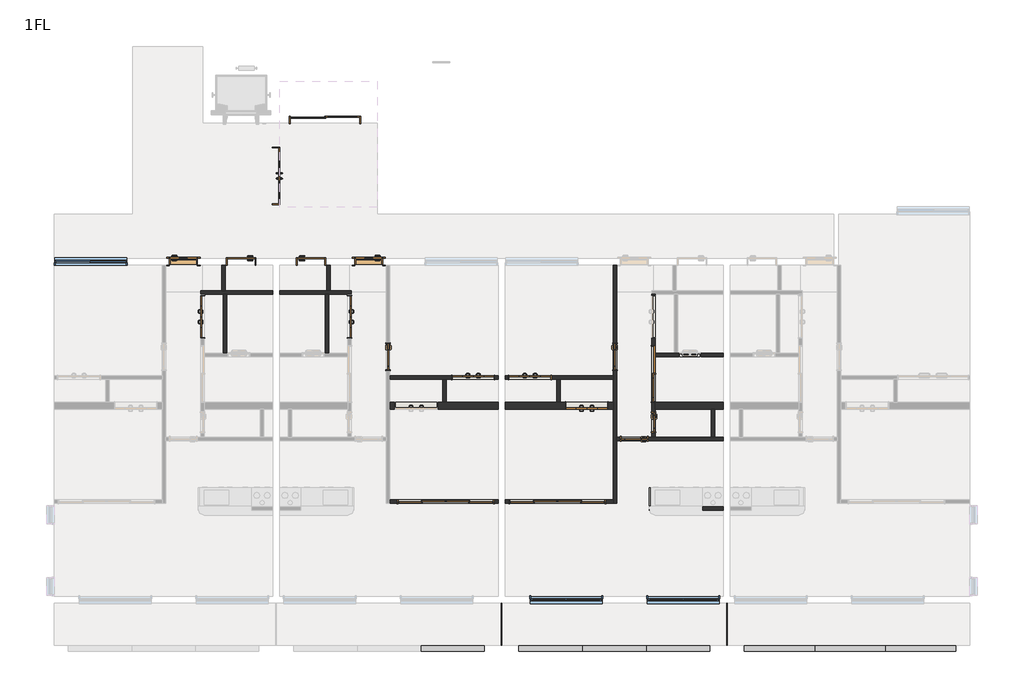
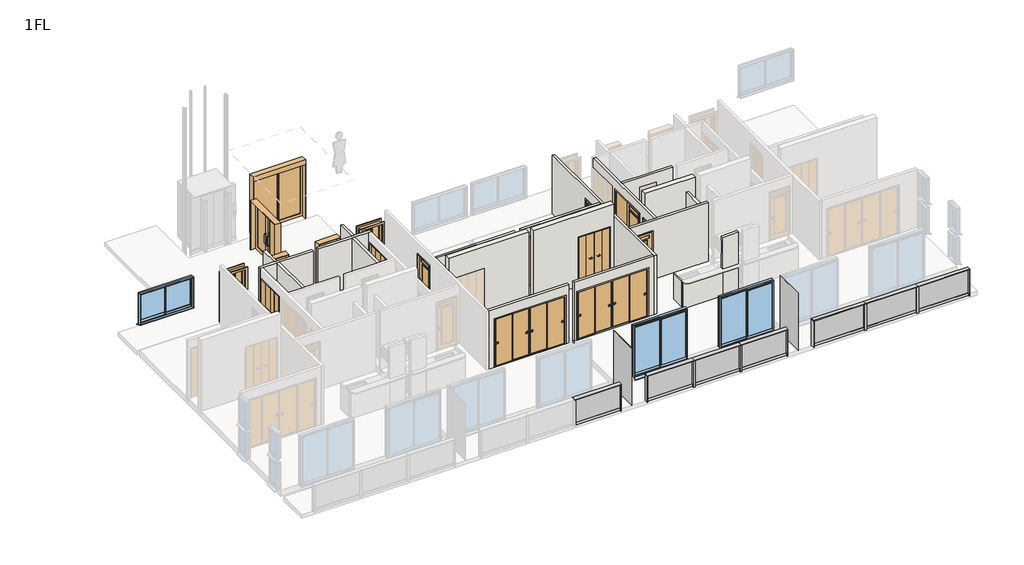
# One storey, part 2 of 3: 23 walls, 18 doors, 16 members, 9 plates, 3 windows.
"""IFC4 building model written with IfcOpenShell, lengths in millimetres."""

from ifc_helpers import new_model, si_unit, frame, origin, place, context, project, spatial, polyline, outline, extrude, faceted_brep, transform, mapped, element, save
from components import door_800x2000_a7d1584b, door_800x2000_010bfebf, w1200h2000_6a144d60, w1200h2000_98cacc9b, w1200h2000_99d19fb3, w1600h2000_4c3c234a, w1600h2000_3fdee943, w2000h2200_4605e8f1, w2800h2000_670b855b, w2800h2000_04aa64cd, w600h2000_7f2747f4, w800h2000_1d97c4d4, w800h2000_13e9f519, w800h2000_ccb03061, w800h2000_0ab7d42c, member_25x150_3f8205e2, member_25x150_f694351b, member_25x150_e95393f9, member_70x150_851c8a9b, plate_9f48129f, plate_365944b3, plate_b830f844, plate_2f85ae4c, plate_cef4847d, window_2000x1200_fc91d1cf, window_2000x2000_f1ff98da

model = new_model("IFC4")

# Units and contexts
model_context = context("Model", 3, world=origin())
ifc_project = project(units=[si_unit("LENGTHUNIT", "METRE", prefix="MILLI")], contexts=[model_context])

# Site, building, storey
site = spatial("IfcSite", under=ifc_project)
building = spatial("IfcBuilding", under=site)
storey = spatial("IfcBuildingStorey", under=building, Name="1FL", Elevation=1000.0)

# Doors
placement = place(None, origin())
door_800x2000_shape = door_800x2000_a7d1584b(model_context)
element("IfcDoor", 1, ObjectType="片開き3 : 800x2000", at=placement, inside=storey, context=model_context, shape_type="MappedRepresentation", body=[
    mapped(door_800x2000_shape, transform((-7378.7187246, -5700.1171638, 1000.0), x_axis=(1.0, 0.0, 0.0), y_axis=(0.0, 1.0, 0.0), z_axis=(0.0, 0.0, 1.0))),
])
door_800x2000_2_shape = door_800x2000_010bfebf(model_context)
element("IfcDoor", 2, ObjectType="片開き3 : 800x2000", at=placement, inside=storey, context=model_context, shape_type="MappedRepresentation", body=[
    mapped(door_800x2000_2_shape, transform((-2078.7187246, -5700.1171638, 1000.0), x_axis=(-1.0, 0.0, 0.0), y_axis=(0.0, -1.0, 0.0), z_axis=(0.0, 0.0, 1.0))),
])
w1200h2000_shape = w1200h2000_6a144d60(model_context)
element("IfcDoor", 3, ObjectType="木製折戸 : w1200h2000", at=placement, inside=storey, context=model_context, shape_type="MappedRepresentation", body=[
    mapped(w1200h2000_shape, transform((-6828.7187246, -7280.1171638, 1100.0), x_axis=(0.0, 1.0, 0.0), y_axis=(-1.0, 0.0, 0.0), z_axis=(0.0, 0.0, 1.0))),
])
element("IfcDoor", 4, ObjectType="木製折戸 : w1200h2000", at=placement, inside=storey, context=model_context, shape_type="MappedRepresentation", body=[
    mapped(w1200h2000_shape, transform((2533.7812754, -9020.1171638, 1100.0), x_axis=(1.0, 0.0, 0.0), y_axis=(0.0, 1.0, 0.0), z_axis=(0.0, 0.0, 1.0))),
])
w1200h2000_2_shape = w1200h2000_98cacc9b(model_context)
element("IfcDoor", 5, ObjectType="木製折戸 : w1200h2000", at=placement, inside=storey, context=model_context, shape_type="MappedRepresentation", body=[
    mapped(w1200h2000_2_shape, transform((4158.7812754, -9820.1171638, 1100.0), x_axis=(-1.0, 0.0, 0.0), y_axis=(0.0, -1.0, 0.0), z_axis=(0.0, 0.0, 1.0))),
])
w1200h2000_3_shape = w1200h2000_99d19fb3(model_context)
element("IfcDoor", 6, ObjectType="木製折戸 : w1200h2000", at=placement, inside=storey, context=model_context, shape_type="MappedRepresentation", body=[
    mapped(w1200h2000_3_shape, transform((908.7812754, -9020.1171638, 1100.0), x_axis=(-1.0, 0.0, 0.0), y_axis=(0.0, -1.0, 0.0), z_axis=(0.0, 0.0, 1.0))),
])
element("IfcDoor", 7, ObjectType="木製折戸 : w1200h2000", at=placement, inside=storey, context=model_context, shape_type="MappedRepresentation", body=[
    mapped(w1200h2000_3_shape, transform((-2628.7187246, -7280.1171638, 1100.0), x_axis=(0.0, 1.0, 0.0), y_axis=(-1.0, 0.0, 0.0), z_axis=(0.0, 0.0, 1.0))),
])
w1600h2000_shape = w1600h2000_4c3c234a(model_context)
element("IfcDoor", 8, ObjectType="片引戸CL2017 : w1600h2000", at=placement, inside=storey, context=model_context, shape_type="MappedRepresentation", body=[
    mapped(w1600h2000_shape, transform((6071.2812754, -8920.1171638, 1100.0), x_axis=(0.0, -1.0, 0.0), y_axis=(1.0, 0.0, 0.0), z_axis=(0.0, 0.0, 1.0))),
])
w1600h2000_2_shape = w1600h2000_3fdee943(model_context)
element("IfcDoor", 9, ObjectType="両開_ガラス四方框 : w1600h2000", at=placement, inside=storey, context=model_context, shape_type="MappedRepresentation", body=[
    mapped(w1600h2000_2_shape, transform((-4728.7187246, -3250.1171638, 1000.0), x_axis=(0.0, -1.0, 0.0), y_axis=(1.0, 0.0, 0.0), z_axis=(0.0, 0.0, 1.0))),
])
w2000h2200_shape = w2000h2200_4605e8f1(model_context)
element("IfcDoor", 10, ObjectType="片引き_自動ドア_ガラス四方框 : w2000h2200", at=placement, inside=storey, context=model_context, shape_type="MappedRepresentation", body=[
    mapped(w2000h2200_shape, transform((-3203.7187246, -1650.1171638, 1000.0), x_axis=(1.0, 0.0, 0.0), y_axis=(0.0, 1.0, 0.0), z_axis=(0.0, 0.0, 1.0))),
])
w2800h2000_shape = w2800h2000_670b855b(model_context)
element("IfcDoor", 11, ObjectType="引違い 4 枚 2 溝_襖 : w2800h2000", at=placement, inside=storey, context=model_context, shape_type="MappedRepresentation", body=[
    mapped(w2800h2000_shape, transform((3315.7457714, -12570.1171638, 1100.0), x_axis=(-1.0, 0.0, 0.0), y_axis=(0.0, -1.0, 0.0), z_axis=(0.0, 0.0, 1.0))),
])
w2800h2000_2_shape = w2800h2000_04aa64cd(model_context)
element("IfcDoor", 12, ObjectType="引違い 4 枚 2 溝_襖 : w2800h2000", at=placement, inside=storey, context=model_context, shape_type="MappedRepresentation", body=[
    mapped(w2800h2000_2_shape, transform((126.8167793, -12570.1171638, 1100.0), x_axis=(1.0, 0.0, 0.0), y_axis=(0.0, 1.0, 0.0), z_axis=(0.0, 0.0, 1.0))),
])
w600h2000_shape = w600h2000_7f2747f4(model_context)
element("IfcDoor", 13, ObjectType="片開戸CL2058 : w600h2000", at=placement, inside=storey, context=model_context, shape_type="MappedRepresentation", body=[
    mapped(w600h2000_shape, transform((6071.2812754, -10295.1171638, 1100.0), x_axis=(0.0, -1.0, 0.0), y_axis=(1.0, 0.0, 0.0), z_axis=(0.0, 0.0, 1.0))),
])
w800h2000_shape = w800h2000_1d97c4d4(model_context)
element("IfcDoor", 14, ObjectType="片開 : w800h2000", at=placement, inside=storey, context=model_context, shape_type="MappedRepresentation", body=[
    mapped(w800h2000_shape, transform((-5728.7187246, -5700.1171638, 1000.0), x_axis=(-1.0, 0.0, 0.0), y_axis=(0.0, -1.0, 0.0), z_axis=(0.0, 0.0, 1.0))),
])
w800h2000_2_shape = w800h2000_13e9f519(model_context)
element("IfcDoor", 15, ObjectType="片開戸CL2058 : w800h2000", at=placement, inside=storey, context=model_context, shape_type="MappedRepresentation", body=[
    mapped(w800h2000_2_shape, transform((4971.2812754, -8420.1171638, 1100.0), x_axis=(0.0, -1.0, 0.0), y_axis=(1.0, 0.0, 0.0), z_axis=(0.0, 0.0, 1.0))),
])
w800h2000_3_shape = w800h2000_ccb03061(model_context)
element("IfcDoor", 16, ObjectType="片開戸CL2058 : w800h2000", at=placement, inside=storey, context=model_context, shape_type="MappedRepresentation", body=[
    mapped(w800h2000_3_shape, transform((-1528.7187246, -8420.1171638, 1100.0), x_axis=(0.0, -1.0, 0.0), y_axis=(1.0, 0.0, 0.0), z_axis=(0.0, 0.0, 1.0))),
])
element("IfcDoor", 17, ObjectType="片開戸CL2058 : w800h2000", at=placement, inside=storey, context=model_context, shape_type="MappedRepresentation", body=[
    mapped(w800h2000_3_shape, transform((5521.2812754, -10770.1171638, 1100.0), x_axis=(-1.0, 0.0, 0.0), y_axis=(0.0, -1.0, 0.0), z_axis=(0.0, 0.0, 1.0))),
])
w800h2000_4_shape = w800h2000_0ab7d42c(model_context)
element("IfcDoor", 18, ObjectType="片開 : w800h2000", at=placement, inside=storey, context=model_context, shape_type="MappedRepresentation", body=[
    mapped(w800h2000_4_shape, transform((-3728.7187246, -5700.1171638, 1000.0), x_axis=(1.0, 0.0, 0.0), y_axis=(0.0, 1.0, 0.0), z_axis=(0.0, 0.0, 1.0))),
])

# Members
member_25x150_shape = member_25x150_3f8205e2(model_context)
element("IfcMember", 19, ObjectType="長方形のマリオン : 25x150", at=placement, inside=storey, context=model_context, shape_type="MappedRepresentation", body=[
    mapped(member_25x150_shape, transform((1221.2812754, -16770.1171638, 1000.0), x_axis=(1.0, 0.0, 0.0), y_axis=(0.0, -1.0, 0.0), z_axis=(0.0, 0.0, -1.0))),
])
element("IfcMember", 20, ObjectType="長方形のマリオン : 25x150", at=placement, inside=storey, context=model_context, shape_type="MappedRepresentation", body=[
    mapped(member_25x150_shape, transform((7671.2812754, -16770.1171638, 1000.0), x_axis=(1.0, 0.0, 0.0), y_axis=(0.0, -1.0, 0.0), z_axis=(0.0, 0.0, -1.0))),
])
element("IfcMember", 21, ObjectType="長方形のマリオン : 25x150", at=placement, inside=storey, context=model_context, shape_type="MappedRepresentation", body=[
    mapped(member_25x150_shape, transform((14721.2812754, -16770.1171638, 1000.0), x_axis=(1.0, 0.0, 0.0), y_axis=(0.0, -1.0, 0.0), z_axis=(0.0, 0.0, -1.0))),
])
element("IfcMember", 22, ObjectType="長方形のマリオン : 25x150", at=placement, inside=storey, context=model_context, shape_type="MappedRepresentation", body=[
    mapped(member_25x150_shape, transform((2221.2812754, -16770.1171638, 2075.0), x_axis=(-1.0, 0.0, 0.0), y_axis=(0.0, -1.0, 0.0), z_axis=(0.0, 0.0, 1.0))),
])
element("IfcMember", 23, ObjectType="長方形のマリオン : 25x150", at=placement, inside=storey, context=model_context, shape_type="MappedRepresentation", body=[
    mapped(member_25x150_shape, transform((8671.2812754, -16770.1171638, 2075.0), x_axis=(-1.0, 0.0, 0.0), y_axis=(0.0, -1.0, 0.0), z_axis=(0.0, 0.0, 1.0))),
])
member_25x150_2_shape = member_25x150_f694351b(model_context)
element("IfcMember", 24, ObjectType="長方形のマリオン : 25x150", at=placement, inside=storey, context=model_context, shape_type="MappedRepresentation", body=[
    mapped(member_25x150_2_shape, transform((1221.2812754, -16770.1171638, 2100.0), x_axis=(0.0, 0.0, 1.0), y_axis=(0.0, -1.0, 0.0), z_axis=(1.0, 0.0, 0.0))),
])
element("IfcMember", 25, ObjectType="長方形のマリオン : 25x150", at=placement, inside=storey, context=model_context, shape_type="MappedRepresentation", body=[
    mapped(member_25x150_2_shape, transform((7671.2812754, -16770.1171638, 2100.0), x_axis=(0.0, 0.0, 1.0), y_axis=(0.0, -1.0, 0.0), z_axis=(1.0, 0.0, 0.0))),
])
element("IfcMember", 26, ObjectType="長方形のマリオン : 25x150", at=placement, inside=storey, context=model_context, shape_type="MappedRepresentation", body=[
    mapped(member_25x150_2_shape, transform((4037.947942, -16770.1171638, 2100.0), x_axis=(0.0, 0.0, 1.0), y_axis=(0.0, -1.0, 0.0), z_axis=(1.0, 0.0, 0.0))),
])
element("IfcMember", 27, ObjectType="長方形のマリオン : 25x150", at=placement, inside=storey, context=model_context, shape_type="MappedRepresentation", body=[
    mapped(member_25x150_2_shape, transform((5854.6146087, -16770.1171638, 2100.0), x_axis=(0.0, 0.0, 1.0), y_axis=(0.0, -1.0, 0.0), z_axis=(1.0, 0.0, 0.0))),
])
member_25x150_3_shape = member_25x150_e95393f9(model_context)
element("IfcMember", 28, ObjectType="長方形のマリオン : 25x150", at=placement, inside=storey, context=model_context, shape_type="MappedRepresentation", body=[
    mapped(member_25x150_3_shape, transform((14721.2812754, -16770.1171638, 2100.0), x_axis=(0.0, 0.0, 1.0), y_axis=(0.0, -1.0, 0.0), z_axis=(1.0, 0.0, 0.0))),
])
element("IfcMember", 29, ObjectType="長方形のマリオン : 25x150", at=placement, inside=storey, context=model_context, shape_type="MappedRepresentation", body=[
    mapped(member_25x150_3_shape, transform((10687.947942, -16770.1171638, 2100.0), x_axis=(0.0, 0.0, 1.0), y_axis=(0.0, -1.0, 0.0), z_axis=(1.0, 0.0, 0.0))),
])
element("IfcMember", 30, ObjectType="長方形のマリオン : 25x150", at=placement, inside=storey, context=model_context, shape_type="MappedRepresentation", body=[
    mapped(member_25x150_3_shape, transform((12704.6146087, -16770.1171638, 2100.0), x_axis=(0.0, 0.0, 1.0), y_axis=(0.0, -1.0, 0.0), z_axis=(1.0, 0.0, 0.0))),
])
member_70x150_shape = member_70x150_851c8a9b(model_context)
element("IfcMember", 31, ObjectType="長方形のマリオン : 70x150", at=placement, inside=storey, context=model_context, shape_type="MappedRepresentation", body=[
    mapped(member_70x150_shape, transform((4037.947942, -16770.1171638, 1000.0), x_axis=(1.0, 0.0, 0.0), y_axis=(0.0, -1.0, 0.0), z_axis=(0.0, 0.0, -1.0))),
])
element("IfcMember", 32, ObjectType="長方形のマリオン : 70x150", at=placement, inside=storey, context=model_context, shape_type="MappedRepresentation", body=[
    mapped(member_70x150_shape, transform((5854.6146087, -16770.1171638, 1000.0), x_axis=(1.0, 0.0, 0.0), y_axis=(0.0, -1.0, 0.0), z_axis=(0.0, 0.0, -1.0))),
])
element("IfcMember", 33, ObjectType="長方形のマリオン : 70x150", at=placement, inside=storey, context=model_context, shape_type="MappedRepresentation", body=[
    mapped(member_70x150_shape, transform((10687.947942, -16770.1171638, 1000.0), x_axis=(1.0, 0.0, 0.0), y_axis=(0.0, -1.0, 0.0), z_axis=(0.0, 0.0, -1.0))),
])
element("IfcMember", 34, ObjectType="長方形のマリオン : 70x150", at=placement, inside=storey, context=model_context, shape_type="MappedRepresentation", body=[
    mapped(member_70x150_shape, transform((12704.6146087, -16770.1171638, 1000.0), x_axis=(1.0, 0.0, 0.0), y_axis=(0.0, -1.0, 0.0), z_axis=(0.0, 0.0, -1.0))),
])

# Plates
plate_shape = plate_9f48129f(model_context)
element("IfcPlate", 35, ObjectType="r パネル FIX 下框付 : 框 H100", at=placement, inside=storey, context=model_context, shape_type="MappedRepresentation", body=[
    mapped(plate_shape, transform((317.947942, -16770.1171638, 1000.0), x_axis=(1.0, 0.0, 0.0), y_axis=(0.0, 1.0, 0.0), z_axis=(0.0, 0.0, 1.0))),
])
element("IfcPlate", 36, ObjectType="r パネル FIX 下框付 : 框 H100", at=placement, inside=storey, context=model_context, shape_type="MappedRepresentation", body=[
    mapped(plate_shape, transform((3124.6146087, -16770.1171638, 1000.0), x_axis=(1.0, 0.0, 0.0), y_axis=(0.0, 1.0, 0.0), z_axis=(0.0, 0.0, 1.0))),
])
element("IfcPlate", 37, ObjectType="r パネル FIX 下框付 : 框 H100", at=placement, inside=storey, context=model_context, shape_type="MappedRepresentation", body=[
    mapped(plate_shape, transform((6767.947942, -16770.1171638, 1000.0), x_axis=(1.0, 0.0, 0.0), y_axis=(0.0, 1.0, 0.0), z_axis=(0.0, 0.0, 1.0))),
])
plate_2_shape = plate_365944b3(model_context)
element("IfcPlate", 38, ObjectType="r パネル FIX 下框付 : 框 H100", at=placement, inside=storey, context=model_context, shape_type="MappedRepresentation", body=[
    mapped(plate_2_shape, transform((4946.2812754, -16770.1171638, 1000.0), x_axis=(1.0, 0.0, 0.0), y_axis=(0.0, 1.0, 0.0), z_axis=(0.0, 0.0, 1.0))),
])
plate_3_shape = plate_b830f844(model_context)
element("IfcPlate", 39, ObjectType="r パネル FIX 下框付 : 框 H100", at=placement, inside=storey, context=model_context, shape_type="MappedRepresentation", body=[
    mapped(plate_3_shape, transform((9674.6146087, -16770.1171638, 1000.0), x_axis=(1.0, 0.0, 0.0), y_axis=(0.0, 1.0, 0.0), z_axis=(0.0, 0.0, 1.0))),
])
element("IfcPlate", 40, ObjectType="r パネル FIX 下框付 : 框 H100", at=placement, inside=storey, context=model_context, shape_type="MappedRepresentation", body=[
    mapped(plate_3_shape, transform((13717.947942, -16770.1171638, 1000.0), x_axis=(1.0, 0.0, 0.0), y_axis=(0.0, 1.0, 0.0), z_axis=(0.0, 0.0, 1.0))),
])
plate_4_shape = plate_2f85ae4c(model_context)
element("IfcPlate", 41, ObjectType="r パネル FIX 下框付 : 框 H100", at=placement, inside=storey, context=model_context, shape_type="MappedRepresentation", body=[
    mapped(plate_4_shape, transform((11696.2812754, -16770.1171638, 1000.0), x_axis=(1.0, 0.0, 0.0), y_axis=(0.0, 1.0, 0.0), z_axis=(0.0, 0.0, 1.0))),
])
plate_5_shape = plate_cef4847d(model_context)
element("IfcPlate", 42, ObjectType="システム パネル : 標準", at=placement, inside=storey, context=model_context, shape_type="MappedRepresentation", body=[
    mapped(plate_5_shape, transform((1721.2812754, -16070.1171638, 950.0), x_axis=(0.0, -1.0, 0.0), y_axis=(1.0, 0.0, 0.0), z_axis=(0.0, 0.0, 1.0))),
])
element("IfcPlate", 43, ObjectType="システム パネル : 標準", at=placement, inside=storey, context=model_context, shape_type="MappedRepresentation", body=[
    mapped(plate_5_shape, transform((8171.2812754, -16070.1171638, 950.0), x_axis=(0.0, -1.0, 0.0), y_axis=(1.0, 0.0, 0.0), z_axis=(0.0, 0.0, 1.0))),
])

# Walls
element("IfcWall", 44, ObjectType="(R)RC200", at=placement, inside=storey, context=model_context, shape_type="Brep", body=[
    faceted_brep([(1621.2812754, -9720.1171638, 1000.0), (146.2812754, -9720.1171638, 1000.0), (46.2812754, -9720.1171638, 1000.0), (-1478.7187246, -9720.1171638, 1000.0), (-1478.7187246, -9720.1171638, 4000.0), (1621.2812754, -9720.1171638, 4000.0), (-96.2187246, -9720.1171638, 3120.0), (-1336.2187246, -9720.1171638, 3120.0), (-1336.2187246, -9720.1171638, 1100.0), (-96.2187246, -9720.1171638, 1100.0), (1621.2812754, -9920.1171638, 1000.0), (1621.2812754, -9920.1171638, 4000.0), (-1478.7187246, -9920.1171638, 4000.0), (-1478.7187246, -9920.1171638, 1000.0), (-96.2187246, -9920.1171638, 3120.0), (-96.2187246, -9920.1171638, 1100.0), (-1336.2187246, -9920.1171638, 1100.0), (-1336.2187246, -9920.1171638, 3120.0)], [[[0, 1, 2, 3, 4, 5], [6, 7, 8, 9]], [[10, 11, 12, 13], [14, 15, 16, 17]], [[3, 2, 1, 0, 10, 13]], [[5, 4, 12, 11]], [[4, 3, 13, 12]], [[15, 14, 6, 9]], [[16, 15, 9, 8]], [[17, 16, 8, 7]], [[14, 17, 7, 6]], [[0, 5, 11, 10]]]),
])
element("IfcWall", 45, ObjectType="(R)RC200", at=placement, inside=storey, context=model_context, shape_type="Brep", body=[
    faceted_brep([(1821.2812754, -9920.1171638, 1000.0), (4921.2812754, -9920.1171638, 1000.0), (4921.2812754, -9920.1171638, 4000.0), (1821.2812754, -9920.1171638, 4000.0), (3538.7812754, -9920.1171638, 3120.0), (4778.7812754, -9920.1171638, 3120.0), (4778.7812754, -9920.1171638, 1100.0), (3538.7812754, -9920.1171638, 1100.0), (1821.2812754, -9720.1171638, 1000.0), (1821.2812754, -9720.1171638, 4000.0), (4921.2812754, -9720.1171638, 4000.0), (4921.2812754, -9720.1171638, 1000.0), (3396.2812754, -9720.1171638, 1000.0), (3296.2812754, -9720.1171638, 1000.0), (3538.7812754, -9720.1171638, 3120.0), (3538.7812754, -9720.1171638, 1100.0), (4778.7812754, -9720.1171638, 1100.0), (4778.7812754, -9720.1171638, 3120.0)], [[[0, 1, 2, 3], [4, 5, 6, 7]], [[8, 9, 10, 11, 12, 13], [14, 15, 16, 17]], [[1, 0, 8, 13, 12, 11]], [[3, 2, 10, 9]], [[2, 1, 11, 10]], [[15, 14, 4, 7]], [[16, 15, 7, 6]], [[17, 16, 6, 5]], [[14, 17, 5, 4]], [[0, 3, 9, 8]]]),
])
element("IfcWall", 46, ObjectType="(R)RC200", at=placement, inside=storey, context=model_context, shape_type="Brep", body=[
    faceted_brep([(6121.2812754, -9920.1171638, 1000.0), (7721.2812754, -9920.1171638, 1000.0), (7821.2812754, -9920.1171638, 1000.0), (8071.2812754, -9920.1171638, 1000.0), (8071.2812754, -9920.1171638, 4000.0), (6121.2812754, -9920.1171638, 4000.0), (6121.2812754, -9720.1171638, 1000.0), (6121.2812754, -9720.1171638, 4000.0), (8071.2812754, -9720.1171638, 4000.0), (8071.2812754, -9720.1171638, 1000.0)], [[[0, 1, 2, 3, 4, 5]], [[6, 7, 8, 9]], [[3, 2, 1, 0, 6, 9]], [[5, 4, 8, 7]], [[0, 5, 7, 6]], [[4, 3, 9, 8]]]),
])
element("IfcWall", 47, ObjectType="(F)30", at=placement, inside=storey, context=model_context, shape_type="SweptSolid", body=[
    extrude(outline(polyline([(5948.8875596, -12720.1171638), (5948.8875596, -12165.1171638), (5978.8875596, -12165.1171638), (5978.8875596, -12720.1171638), (5948.8875596, -12720.1171638)])), frame((0.0, 0.0, 1100.0), z_axis=(0.0, 0.0, 1.0), x_axis=(1.0, 0.0, 0.0)), (0.0, 0.0, 1.0), 1060.0),
])
element("IfcWall", 48, ObjectType="(L1)LGS100", at=placement, inside=storey, context=model_context, shape_type="Brep", body=[
    faceted_brep([(-6878.7187246, -6630.1171638, 1000.0), (-6778.7187246, -6630.1171638, 1000.0), (-6238.7187246, -6630.1171638, 1000.0), (-6138.7187246, -6630.1171638, 1000.0), (-4828.7187246, -6630.1171638, 1000.0), (-4828.7187246, -6630.1171638, 3500.0), (-6138.7187246, -6630.1171638, 3500.0), (-6238.7187246, -6630.1171638, 3500.0), (-6778.7187246, -6630.1171638, 3500.0), (-6878.7187246, -6630.1171638, 3500.0), (-6878.7187246, -6530.1171638, 1000.0), (-6878.7187246, -6530.1171638, 3500.0), (-6278.7187246, -6530.1171638, 3500.0), (-6178.7187246, -6530.1171638, 3500.0), (-4828.7187246, -6530.1171638, 3500.0), (-4828.7187246, -6530.1171638, 1000.0), (-6178.7187246, -6530.1171638, 1000.0), (-6278.7187246, -6530.1171638, 1000.0)], [[[0, 1, 2, 3, 4, 5, 6, 7, 8, 9]], [[10, 11, 12, 13, 14, 15, 16, 17]], [[4, 3, 2, 1, 0, 10, 17, 16, 15]], [[9, 8, 7, 6, 5, 14, 13, 12, 11]], [[5, 4, 15, 14]], [[0, 9, 11, 10]]]),
])
element("IfcWall", 49, ObjectType="(L1)LGS100", at=placement, inside=storey, context=model_context, shape_type="SweptSolid", body=[
    extrude(outline(polyline([(-6178.7187246, -5800.1171638), (-6178.7187246, -6530.1171638), (-6278.7187246, -6530.1171638), (-6278.7187246, -5800.1171638), (-6178.7187246, -5800.1171638)])), frame((0.0, 0.0, 1000.0), z_axis=(0.0, 0.0, 1.0), x_axis=(1.0, 0.0, 0.0)), (0.0, 0.0, 1.0), 2500.0),
])
element("IfcWall", 50, ObjectType="(L1)LGS100", at=placement, inside=storey, context=model_context, shape_type="SweptSolid", body=[
    extrude(outline(polyline([(-6138.7187246, -6630.1171638), (-6138.7187246, -8320.1171638), (-6238.7187246, -8320.1171638), (-6238.7187246, -6630.1171638), (-6138.7187246, -6630.1171638)])), frame((0.0, 0.0, 1000.0), z_axis=(0.0, 0.0, 1.0), x_axis=(1.0, 0.0, 0.0)), (0.0, 0.0, 1.0), 2500.0),
])
element("IfcWall", 51, ObjectType="(L1)LGS100", at=placement, inside=storey, context=model_context, shape_type="Brep", body=[
    faceted_brep([(1621.2812754, -8970.1171638, 1000.0), (-1478.7187246, -8970.1171638, 1000.0), (-1478.7187246, -8970.1171638, 3500.0), (1621.2812754, -8970.1171638, 3500.0), (288.7812754, -8970.1171638, 3120.0), (288.7812754, -8970.1171638, 1100.0), (1528.7812754, -8970.1171638, 1100.0), (1528.7812754, -8970.1171638, 3120.0), (-1478.7187246, -9070.1171638, 1000.0), (46.2812754, -9070.1171638, 1000.0), (146.2812754, -9070.1171638, 1000.0), (1621.2812754, -9070.1171638, 1000.0), (1621.2812754, -9070.1171638, 3500.0), (146.2812754, -9070.1171638, 3500.0), (46.2812754, -9070.1171638, 3500.0), (-1478.7187246, -9070.1171638, 3500.0), (288.7812754, -9070.1171638, 1100.0), (288.7812754, -9070.1171638, 3120.0), (1528.7812754, -9070.1171638, 3120.0), (1528.7812754, -9070.1171638, 1100.0)], [[[0, 1, 2, 3], [4, 5, 6, 7]], [[8, 9, 10, 11, 12, 13, 14, 15], [16, 17, 18, 19]], [[1, 0, 11, 10, 9, 8]], [[3, 2, 15, 14, 13, 12]], [[2, 1, 8, 15]], [[4, 17, 16, 5]], [[5, 16, 19, 6]], [[17, 4, 7, 18]], [[18, 7, 6, 19]], [[0, 3, 12, 11]]]),
])
element("IfcWall", 52, ObjectType="(L1)LGS100", at=placement, inside=storey, context=model_context, shape_type="SweptSolid", body=[
    extrude(outline(polyline([(146.2812754, -9070.1171638), (146.2812754, -9720.1171638), (46.2812754, -9720.1171638), (46.2812754, -9070.1171638), (146.2812754, -9070.1171638)])), frame((0.0, 0.0, 1000.0), z_axis=(0.0, 0.0, 1.0), x_axis=(1.0, 0.0, 0.0)), (0.0, 0.0, 1.0), 2500.0),
])
element("IfcWall", 53, ObjectType="(L1)LGS100", at=placement, inside=storey, context=model_context, shape_type="Brep", body=[
    faceted_brep([(-2578.7187246, -6530.1171638, 1000.0), (-3178.7187246, -6530.1171638, 1000.0), (-3278.7187246, -6530.1171638, 1000.0), (-4628.7187246, -6530.1171638, 1000.0), (-4628.7187246, -6530.1171638, 3500.0), (-3278.7187246, -6530.1171638, 3500.0), (-3178.7187246, -6530.1171638, 3500.0), (-2578.7187246, -6530.1171638, 3500.0), (-2578.7187246, -6630.1171638, 1000.0), (-2578.7187246, -6630.1171638, 3500.0), (-2678.7187246, -6630.1171638, 3500.0), (-3218.7187246, -6630.1171638, 3500.0), (-3318.7187246, -6630.1171638, 3500.0), (-4628.7187246, -6630.1171638, 3500.0), (-4628.7187246, -6630.1171638, 1000.0), (-3318.7187246, -6630.1171638, 1000.0), (-3218.7187246, -6630.1171638, 1000.0), (-2678.7187246, -6630.1171638, 1000.0)], [[[0, 1, 2, 3, 4, 5, 6, 7]], [[8, 9, 10, 11, 12, 13, 14, 15, 16, 17]], [[3, 2, 1, 0, 8, 17, 16, 15, 14]], [[7, 6, 5, 4, 13, 12, 11, 10, 9]], [[0, 7, 9, 8]], [[4, 3, 14, 13]]]),
])
element("IfcWall", 54, ObjectType="(L1)LGS100", at=placement, inside=storey, context=model_context, shape_type="SweptSolid", body=[
    extrude(outline(polyline([(-3178.7187246, -5800.1171638), (-3178.7187246, -6530.1171638), (-3278.7187246, -6530.1171638), (-3278.7187246, -5800.1171638), (-3178.7187246, -5800.1171638)])), frame((0.0, 0.0, 1000.0), z_axis=(0.0, 0.0, 1.0), x_axis=(1.0, 0.0, 0.0)), (0.0, 0.0, 1.0), 2500.0),
])
element("IfcWall", 55, ObjectType="(L1)LGS100", at=placement, inside=storey, context=model_context, shape_type="SweptSolid", body=[
    extrude(outline(polyline([(-3218.7187246, -6630.1171638), (-3218.7187246, -8320.1171638), (-3318.7187246, -8320.1171638), (-3318.7187246, -6630.1171638), (-3218.7187246, -6630.1171638)])), frame((0.0, 0.0, 1000.0), z_axis=(0.0, 0.0, 1.0), x_axis=(1.0, 0.0, 0.0)), (0.0, 0.0, 1.0), 2500.0),
])
element("IfcWall", 56, ObjectType="(L1)LGS100", at=placement, inside=storey, context=model_context, shape_type="SweptSolid", body=[
    extrude(outline(polyline([(1000.0, 1621.2812754), (3500.0, 1621.2812754), (3500.0, -1478.7187246), (1000.0, -1478.7187246), (1000.0, 1621.2812754)]), holes=[polyline([(3100.0, 1521.2812754), (1100.0, 1521.2812754), (1100.0, -1278.7187246), (3100.0, -1278.7187246), (3100.0, 1521.2812754)])]), frame((0.0, -12620.1171638, 0.0), z_axis=(0.0, 1.0, 0.0), x_axis=(0.0, 0.0, 1.0)), (0.0, 0.0, 1.0), 100.0),
])
element("IfcWall", 57, ObjectType="(L1)LGS100", at=placement, inside=storey, context=model_context, shape_type="Brep", body=[
    faceted_brep([(1821.2812754, -9070.1171638, 1000.0), (3296.2812754, -9070.1171638, 1000.0), (3396.2812754, -9070.1171638, 1000.0), (4921.2812754, -9070.1171638, 1000.0), (4921.2812754, -9070.1171638, 3500.0), (3396.2812754, -9070.1171638, 3500.0), (3296.2812754, -9070.1171638, 3500.0), (1821.2812754, -9070.1171638, 3500.0), (3153.7812754, -9070.1171638, 3120.0), (3153.7812754, -9070.1171638, 1100.0), (1913.7812754, -9070.1171638, 1100.0), (1913.7812754, -9070.1171638, 3120.0), (4921.2812754, -8970.1171638, 1000.0), (1821.2812754, -8970.1171638, 1000.0), (1821.2812754, -8970.1171638, 3500.0), (4921.2812754, -8970.1171638, 3500.0), (3153.7812754, -8970.1171638, 1100.0), (3153.7812754, -8970.1171638, 3120.0), (1913.7812754, -8970.1171638, 3120.0), (1913.7812754, -8970.1171638, 1100.0)], [[[0, 1, 2, 3, 4, 5, 6, 7], [8, 9, 10, 11]], [[12, 13, 14, 15], [16, 17, 18, 19]], [[3, 2, 1, 0, 13, 12]], [[7, 6, 5, 4, 15, 14]], [[4, 3, 12, 15]], [[8, 17, 16, 9]], [[9, 16, 19, 10]], [[17, 8, 11, 18]], [[18, 11, 10, 19]], [[0, 7, 14, 13]]]),
])
element("IfcWall", 58, ObjectType="(L1)LGS100", at=placement, inside=storey, context=model_context, shape_type="SweptSolid", body=[
    extrude(outline(polyline([(3396.2812754, -9070.1171638), (3396.2812754, -9720.1171638), (3296.2812754, -9720.1171638), (3296.2812754, -9070.1171638), (3396.2812754, -9070.1171638)])), frame((0.0, 0.0, 1000.0), z_axis=(0.0, 0.0, 1.0), x_axis=(1.0, 0.0, 0.0)), (0.0, 0.0, 1.0), 2500.0),
])
element("IfcWall", 59, ObjectType="(L1)LGS100", at=placement, inside=storey, context=model_context, shape_type="Brep", body=[
    faceted_brep([(5021.2812754, -12620.1171638, 1000.0), (5021.2812754, -10820.1171638, 1000.0), (5021.2812754, -10720.1171638, 1000.0), (5021.2812754, -5800.1171638, 1000.0), (5021.2812754, -5800.1171638, 3500.0), (5021.2812754, -10720.1171638, 3500.0), (5021.2812754, -10820.1171638, 3500.0), (5021.2812754, -12620.1171638, 3500.0), (5021.2812754, -8820.1171638, 1100.0), (5021.2812754, -8820.1171638, 3100.0), (5021.2812754, -8020.1171638, 3100.0), (5021.2812754, -8020.1171638, 1100.0), (4921.2812754, -12620.1171638, 1000.0), (4921.2812754, -12620.1171638, 3500.0), (4921.2812754, -12520.1171638, 3500.0), (4921.2812754, -9070.1171638, 3500.0), (4921.2812754, -8970.1171638, 3500.0), (4921.2812754, -5800.1171638, 3500.0), (4921.2812754, -5800.1171638, 1000.0), (4921.2812754, -8970.1171638, 1000.0), (4921.2812754, -9070.1171638, 1000.0), (4921.2812754, -9720.1171638, 1000.0), (4921.2812754, -9920.1171638, 1000.0), (4921.2812754, -12520.1171638, 1000.0), (4921.2812754, -8820.1171638, 1100.0), (4921.2812754, -8020.1171638, 1100.0), (4921.2812754, -8020.1171638, 3100.0), (4921.2812754, -8820.1171638, 3100.0)], [[[0, 1, 2, 3, 4, 5, 6, 7], [8, 9, 10, 11]], [[12, 13, 14, 15, 16, 17, 18, 19, 20, 21, 22, 23], [24, 25, 26, 27]], [[3, 2, 1, 0, 12, 23, 22, 21, 20, 19, 18]], [[7, 6, 5, 4, 17, 16, 15, 14, 13]], [[0, 7, 13, 12]], [[9, 8, 24, 27]], [[10, 9, 27, 26]], [[11, 10, 26, 25]], [[8, 11, 25, 24]], [[4, 3, 18, 17]]]),
])
element("IfcWall", 60, ObjectType="(L1)LGS100", at=placement, inside=storey, context=model_context, shape_type="Brep", body=[
    faceted_brep([(6121.2812754, -8420.1171638, 1000.0), (8071.2812754, -8420.1171638, 1000.0), (8071.2812754, -8420.1171638, 3500.0), (6121.2812754, -8420.1171638, 3500.0), (7431.2812754, -8420.1171638, 3120.0), (7431.2812754, -8420.1171638, 1100.0), (6791.2812754, -8420.1171638, 1100.0), (6791.2812754, -8420.1171638, 3120.0), (6121.2812754, -8320.1171638, 1000.0), (6121.2812754, -8320.1171638, 3500.0), (6661.2812754, -8320.1171638, 3500.0), (6761.2812754, -8320.1171638, 3500.0), (8071.2812754, -8320.1171638, 3500.0), (8071.2812754, -8320.1171638, 1000.0), (6761.2812754, -8320.1171638, 1000.0), (6661.2812754, -8320.1171638, 1000.0), (7431.2812754, -8320.1171638, 3120.0), (6791.2812754, -8320.1171638, 3120.0), (6791.2812754, -8320.1171638, 1100.0), (7431.2812754, -8320.1171638, 1100.0)], [[[0, 1, 2, 3], [4, 5, 6, 7]], [[8, 9, 10, 11, 12, 13, 14, 15], [16, 17, 18, 19]], [[1, 0, 8, 15, 14, 13]], [[3, 2, 12, 11, 10, 9]], [[0, 3, 9, 8]], [[5, 4, 16, 19]], [[6, 5, 19, 18]], [[7, 6, 18, 17]], [[4, 7, 17, 16]], [[2, 1, 13, 12]]]),
])
element("IfcWall", 61, ObjectType="(L1)LGS100", at=placement, inside=storey, context=model_context, shape_type="Brep", body=[
    faceted_brep([(6121.2812754, -10720.1171638, 1000.0), (6121.2812754, -9920.1171638, 1000.0), (6121.2812754, -9720.1171638, 1000.0), (6121.2812754, -8420.1171638, 1000.0), (6121.2812754, -8320.1171638, 1000.0), (6121.2812754, -6630.1171638, 1000.0), (6121.2812754, -6630.1171638, 3500.0), (6121.2812754, -8320.1171638, 3500.0), (6121.2812754, -8420.1171638, 3500.0), (6121.2812754, -10720.1171638, 3500.0), (6121.2812754, -10595.1171638, 1100.0), (6121.2812754, -10595.1171638, 3100.0), (6121.2812754, -9995.1171638, 3100.0), (6121.2812754, -9995.1171638, 1100.0), (6121.2812754, -6660.1171638, 1100.0), (6121.2812754, -7900.1171638, 1100.0), (6121.2812754, -7900.1171638, 3120.0), (6121.2812754, -6660.1171638, 3120.0), (6121.2812754, -9745.1171638, 1100.0), (6121.2812754, -9745.1171638, 3140.0), (6121.2812754, -8095.1171638, 3140.0), (6121.2812754, -8095.1171638, 1100.0), (6021.2812754, -6630.1171638, 1000.0), (6021.2812754, -10720.1171638, 1000.0), (6021.2812754, -10720.1171638, 3500.0), (6021.2812754, -6630.1171638, 3500.0), (6021.2812754, -10595.1171638, 1100.0), (6021.2812754, -9995.1171638, 1100.0), (6021.2812754, -9995.1171638, 3100.0), (6021.2812754, -10595.1171638, 3100.0), (6021.2812754, -7900.1171638, 1100.0), (6021.2812754, -6660.1171638, 1100.0), (6021.2812754, -6660.1171638, 3120.0), (6021.2812754, -7900.1171638, 3120.0), (6021.2812754, -9745.1171638, 1100.0), (6021.2812754, -8095.1171638, 1100.0), (6021.2812754, -8095.1171638, 3140.0), (6021.2812754, -9745.1171638, 3140.0)], [[[0, 1, 2, 3, 4, 5, 6, 7, 8, 9], [10, 11, 12, 13], [14, 15, 16, 17], [18, 19, 20, 21]], [[22, 23, 24, 25], [26, 27, 28, 29], [30, 31, 32, 33], [34, 35, 36, 37]], [[5, 4, 3, 2, 1, 0, 23, 22]], [[9, 8, 7, 6, 25, 24]], [[0, 9, 24, 23]], [[11, 10, 26, 29]], [[12, 11, 29, 28]], [[13, 12, 28, 27]], [[10, 13, 27, 26]], [[14, 31, 30, 15]], [[15, 30, 33, 16]], [[16, 33, 32, 17]], [[19, 18, 34, 37]], [[20, 19, 37, 36]], [[21, 20, 36, 35]], [[18, 21, 35, 34]], [[31, 14, 17, 32]], [[6, 5, 22, 25]]]),
])
element("IfcWall", 62, ObjectType="(L1)LGS100", at=placement, inside=storey, context=model_context, shape_type="SweptSolid", body=[
    extrude(outline(polyline([(7821.2812754, -9920.1171638), (7821.2812754, -10720.1171638), (7721.2812754, -10720.1171638), (7721.2812754, -9920.1171638), (7821.2812754, -9920.1171638)])), frame((0.0, 0.0, 1000.0), z_axis=(0.0, 0.0, 1.0), x_axis=(1.0, 0.0, 0.0)), (0.0, 0.0, 1.0), 2500.0),
])
element("IfcWall", 63, ObjectType="(L1)LGS100", at=placement, inside=storey, context=model_context, shape_type="Brep", body=[
    faceted_brep([(5021.2812754, -10820.1171638, 1000.0), (8071.2812754, -10820.1171638, 1000.0), (8071.2812754, -10820.1171638, 3500.0), (5021.2812754, -10820.1171638, 3500.0), (5121.2812754, -10820.1171638, 1100.0), (5121.2812754, -10820.1171638, 3100.0), (5921.2812754, -10820.1171638, 3100.0), (5921.2812754, -10820.1171638, 1100.0), (8071.2812754, -10720.1171638, 1000.0), (7821.2812754, -10720.1171638, 1000.0), (7721.2812754, -10720.1171638, 1000.0), (6121.2812754, -10720.1171638, 1000.0), (6021.2812754, -10720.1171638, 1000.0), (5021.2812754, -10720.1171638, 1000.0), (5021.2812754, -10720.1171638, 3500.0), (6021.2812754, -10720.1171638, 3500.0), (6121.2812754, -10720.1171638, 3500.0), (7721.2812754, -10720.1171638, 3500.0), (7821.2812754, -10720.1171638, 3500.0), (8071.2812754, -10720.1171638, 3500.0), (5121.2812754, -10720.1171638, 3100.0), (5121.2812754, -10720.1171638, 1100.0), (5921.2812754, -10720.1171638, 1100.0), (5921.2812754, -10720.1171638, 3100.0)], [[[0, 1, 2, 3], [4, 5, 6, 7]], [[8, 9, 10, 11, 12, 13, 14, 15, 16, 17, 18, 19], [20, 21, 22, 23]], [[1, 0, 13, 12, 11, 10, 9, 8]], [[3, 2, 19, 18, 17, 16, 15, 14]], [[0, 3, 14, 13]], [[4, 21, 20, 5]], [[5, 20, 23, 6]], [[6, 23, 22, 7]], [[21, 4, 7, 22]], [[2, 1, 8, 19]]]),
])
element("IfcWall", 64, ObjectType="(L1)LGS100", at=placement, inside=storey, context=model_context, shape_type="SweptSolid", body=[
    extrude(outline(polyline([(1000.0, 1821.2812754), (1000.0, 4921.2812754), (3500.0, 4921.2812754), (3500.0, 1821.2812754), (1000.0, 1821.2812754)]), holes=[polyline([(3100.0, 1921.2812754), (3100.0, 4721.2812754), (1100.0, 4721.2812754), (1100.0, 1921.2812754), (3100.0, 1921.2812754)])]), frame((0.0, -12620.1171638, 0.0), z_axis=(0.0, 1.0, 0.0), x_axis=(0.0, 0.0, 1.0)), (0.0, 0.0, 1.0), 100.0),
])
element("IfcWall", 65, ObjectType="(L1)LGS100", at=placement, inside=storey, context=model_context, shape_type="Brep", body=[
    faceted_brep([(8071.2812754, -12720.1171638, 1000.0), (7471.2812754, -12720.1171638, 1000.0), (7471.2812754, -12720.1171638, 2160.0), (7471.2812754, -12720.1171638, 3500.0), (8071.2812754, -12720.1171638, 3500.0), (8071.2812754, -12820.1171638, 1000.0), (8071.2812754, -12820.1171638, 3500.0), (7471.2812754, -12820.1171638, 3500.0), (7471.2812754, -12820.1171638, 2160.0), (7471.2812754, -12820.1171638, 1000.0)], [[[0, 1, 2, 3, 4]], [[5, 6, 7, 8, 9]], [[1, 0, 5, 9]], [[3, 2, 1, 9, 8, 7]], [[4, 3, 7, 6]], [[0, 4, 6, 5]]]),
])
element("IfcWall", 66, ObjectType="(L1)LGS100", at=placement, inside=storey, context=model_context, shape_type="Brep", body=[
    faceted_brep([(5948.8875596, -12820.1171638, 1000.0), (7471.2812754, -12820.1171638, 1000.0), (7471.2812754, -12820.1171638, 2160.0), (5948.8875596, -12820.1171638, 2160.0), (5948.8875596, -12720.1171638, 1000.0), (5948.8875596, -12720.1171638, 1100.0), (5948.8875596, -12720.1171638, 2160.0), (5978.8875596, -12720.1171638, 2160.0), (7471.2812754, -12720.1171638, 2160.0), (7471.2812754, -12720.1171638, 1000.0)], [[[0, 1, 2, 3]], [[4, 5, 6, 7, 8, 9]], [[1, 0, 4, 9]], [[2, 1, 9, 8]], [[3, 2, 8, 7, 6]], [[0, 3, 6, 5, 4]]]),
])

# Windows
window_2000x1200_shape = window_2000x1200_fc91d1cf(model_context)
element("IfcWindow", 67, ObjectType="鋼製_一般枠_引違い-二枚 : 2000x1200", at=placement, inside=storey, context=model_context, shape_type="MappedRepresentation", body=[
    mapped(window_2000x1200_shape, transform((-10028.7187246, -5700.1171638, 1250.0), x_axis=(1.0, 0.0, 0.0), y_axis=(0.0, 1.0, 0.0), z_axis=(0.0, 0.0, 1.0))),
])
window_2000x2000_shape = window_2000x2000_f1ff98da(model_context)
element("IfcWindow", 68, ObjectType="鋼製_一般枠_引違い-二枚 : 2000x2000", at=placement, inside=storey, context=model_context, shape_type="MappedRepresentation", body=[
    mapped(window_2000x2000_shape, transform((3571.2812754, -15370.1171638, 200.0), x_axis=(-1.0, 0.0, 0.0), y_axis=(0.0, -1.0, 0.0), z_axis=(0.0, 0.0, 1.0))),
])
element("IfcWindow", 69, ObjectType="鋼製_一般枠_引違い-二枚 : 2000x2000", at=placement, inside=storey, context=model_context, shape_type="MappedRepresentation", body=[
    mapped(window_2000x2000_shape, transform((6921.2812754, -15370.1171638, 200.0), x_axis=(-1.0, 0.0, 0.0), y_axis=(0.0, -1.0, 0.0), z_axis=(0.0, 0.0, 1.0))),
])

save(model, "model.ifc")
